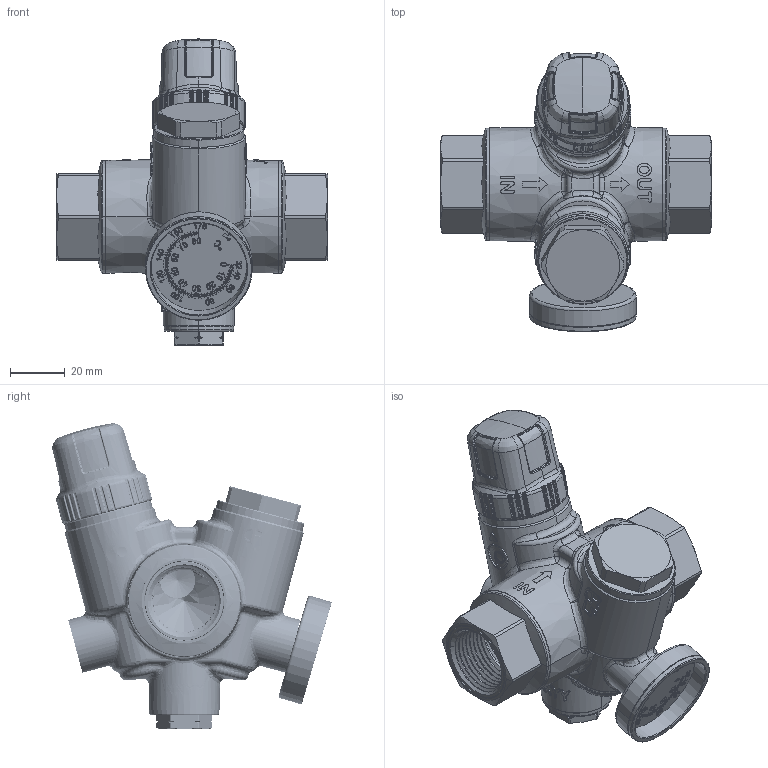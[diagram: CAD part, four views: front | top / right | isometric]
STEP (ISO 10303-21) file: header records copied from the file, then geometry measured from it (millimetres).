
FILE_DESCRIPTION(('Open CASCADE Model'),'2;1');
FILE_NAME('Open CASCADE Shape Model','2022-01-26T10:11:58',('Author'),( 'Open CASCADE'),'Open CASCADE STEP processor 7.3','Open CASCADE 7.3' ,'Unknown');
FILE_SCHEMA(('AUTOMOTIVE_DESIGN { 1 0 10303 214 1 1 1 1 }'));
Length unit declared in the file: millimetre
Products named in the file (20): Open CASCADE STEP translator 7.3 1; Open CASCADE STEP translator 7.3 1.1; Open CASCADE STEP translator 7.3 1.2; Open CASCADE STEP translator 7.3 1.3; Open CASCADE STEP translator 7.3 1.4; Open CASCADE STEP translator 7.3 1.5; Open CASCADE STEP translator 7.3 1.6; Open CASCADE STEP translator 7.3 1.7; Open CASCADE STEP translator 7.3 1.8; Open CASCADE STEP translator 7.3 1.9; Open CASCADE STEP translator 7.3 1.10; Open CASCADE STEP translator 7.3 1.11; Open CASCADE STEP translator 7.3 1.12; Open CASCADE STEP translator 7.3 1.13; Open CASCADE STEP translator 7.3 1.14; Open CASCADE STEP translator 7.3 1.15; Open CASCADE STEP translator 7.3 1.16; Open CASCADE STEP translator 7.3 1.17; Open CASCADE STEP translator 7.3 1.18; Open CASCADE STEP translator 7.3 1.19
Assembly tree (19 placements, depth 2):
  Open CASCADE STEP translator 7.3 1
    Open CASCADE STEP translator 7.3 1.1
    Open CASCADE STEP translator 7.3 1.2
    Open CASCADE STEP translator 7.3 1.3
    Open CASCADE STEP translator 7.3 1.4
    Open CASCADE STEP translator 7.3 1.5
    Open CASCADE STEP translator 7.3 1.6
    Open CASCADE STEP translator 7.3 1.7
    Open CASCADE STEP translator 7.3 1.8
    Open CASCADE STEP translator 7.3 1.9
    Open CASCADE STEP translator 7.3 1.10
    Open CASCADE STEP translator 7.3 1.11
    Open CASCADE STEP translator 7.3 1.12
    Open CASCADE STEP translator 7.3 1.13
    Open CASCADE STEP translator 7.3 1.14
    Open CASCADE STEP translator 7.3 1.15
    Open CASCADE STEP translator 7.3 1.16
    Open CASCADE STEP translator 7.3 1.17
    Open CASCADE STEP translator 7.3 1.18
    Open CASCADE STEP translator 7.3 1.19
Bounding box: 99 x 102.01 x 111.79 mm (x, y, z)
Volume: 133585.7 mm3; surface area: 90595.6 mm2
Topology: 19 solids, 20 shells, 4592 faces, 11843 edges, 7462 vertices
Faces by surface type: extrusion 1173, plane 1081, cylinder 974, bspline 558, cone 411, torus 295, sphere 52, revolution 48
Entity records: 499947 total; most frequent: CARTESIAN_POINT 292740, DIRECTION 27977, ORIENTED_EDGE 23650, PCURVE 23650, DEFINITIONAL_REPRESENTATION 23650, B_SPLINE_CURVE_WITH_KNOTS 18072, VECTOR 15694, LINE 14521
